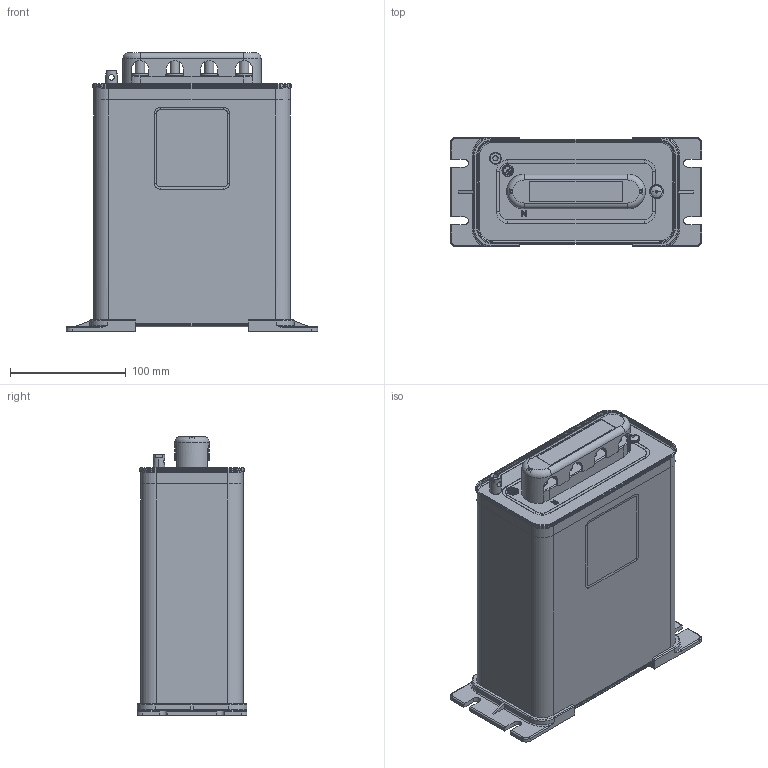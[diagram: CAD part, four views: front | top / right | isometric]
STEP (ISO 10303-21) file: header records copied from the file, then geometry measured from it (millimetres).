
FILE_DESCRIPTION((''),'2;1');
FILE_NAME('2708002500_SW0003','2025-05-06T',('hua.zhang'),(''),'PRO/ENGINEER BY PARAMETRIC TECHNOLOGY CORPORATION, 2017170','PRO/ENGINEER BY PARAMETRIC TECHNOLOGY CORPORATION, 2017170','');
FILE_SCHEMA(('CONFIG_CONTROL_DESIGN'));
Length unit declared in the file: millimetre
Products named in the file (1): 2708002500_SW0003
Bounding box: 217.56 x 95 x 241.34 mm (x, y, z)
Volume: 3024052.5 mm3; surface area: 227896 mm2
Topology: 1 solids, 5 shells, 1246 faces, 3205 edges, 1980 vertices
Faces by surface type: plane 549, cylinder 440, torus 155, cone 52, sphere 34, bspline 16
Entity records: 41580 total; most frequent: CARTESIAN_POINT 10590, DIRECTION 6723, ORIENTED_EDGE 6410, EDGE_CURVE 3205, AXIS2_PLACEMENT_3D 2444, VERTEX_POINT 1980, VECTOR 1835, LINE 1835
